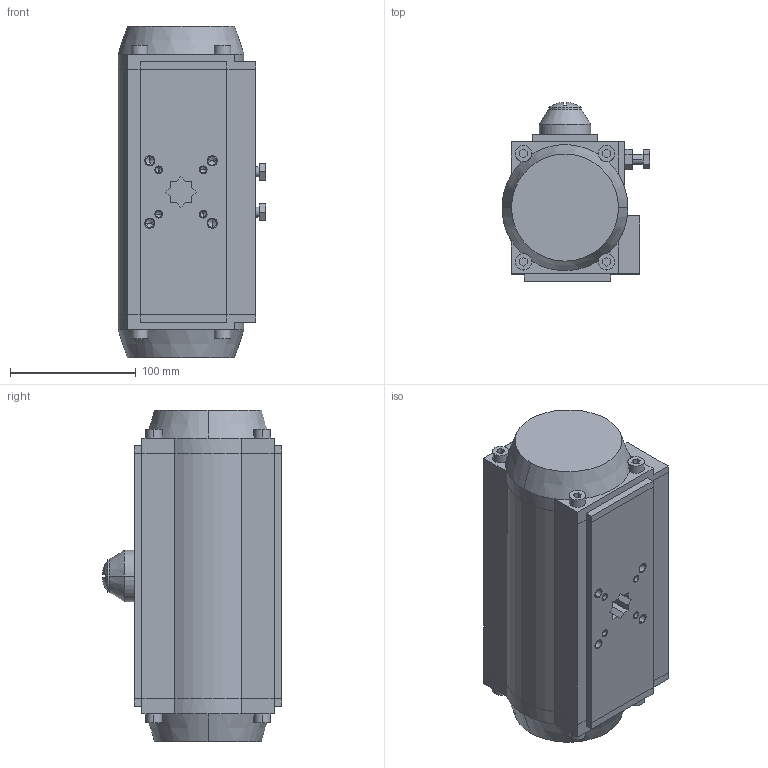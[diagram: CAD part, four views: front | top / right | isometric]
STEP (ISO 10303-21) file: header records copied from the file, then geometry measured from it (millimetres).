
FILE_DESCRIPTION((''),'2;1');
FILE_NAME('SB_PNEVMOPRIVOD_ASM','2024-01-14T',('DIMA'),(''),'PRO/ENGINEER BY PARAMETRIC TECHNOLOGY CORPORATION, 2008020','PRO/ENGINEER BY PARAMETRIC TECHNOLOGY CORPORATION, 2008020','');
FILE_SCHEMA(('CONFIG_CONTROL_DESIGN'));
Length unit declared in the file: millimetre
Products named in the file (7): KORPUS; KOLCO_25_GOST13942; KRISKA_VERX; VINT; KRISKA_LEFT; KRISKA_RIGHT; SB_PNEVMOPRIVOD_ASM
Assembly tree (6 placements, depth 2):
  SB_PNEVMOPRIVOD_ASM
    KORPUS
    KOLCO_25_GOST13942
    KRISKA_VERX
    VINT
    KRISKA_LEFT
    KRISKA_RIGHT
Bounding box: 117.5 x 142.45 x 263 mm (x, y, z)
Volume: 2707267 mm3; surface area: 195130.9 mm2
Topology: 6 solids, 28 shells, 428 faces, 1112 edges, 719 vertices
Faces by surface type: plane 242, cylinder 138, cone 46, sphere 2
Entity records: 13218 total; most frequent: CARTESIAN_POINT 2452, DIRECTION 2316, ORIENTED_EDGE 2056, EDGE_CURVE 1074, AXIS2_PLACEMENT_3D 813, VERTEX_POINT 719, VECTOR 690, LINE 690
